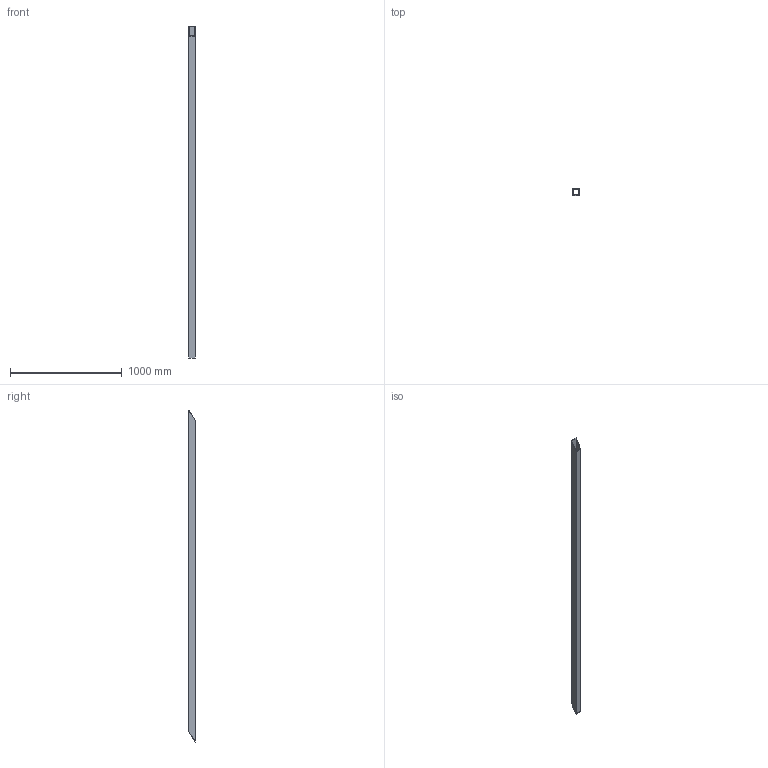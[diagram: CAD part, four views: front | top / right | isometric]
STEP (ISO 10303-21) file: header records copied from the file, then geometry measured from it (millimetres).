
FILE_DESCRIPTION(('Open CASCADE Model'),'2;1');
FILE_NAME('Open CASCADE Shape Model','2026-10-15T15:10:04',('Author'),( 'Open CASCADE'),'Open CASCADE STEP processor 8.0','Open CASCADE 8.0' ,'Unknown');
FILE_SCHEMA(('AUTOMOTIVE_DESIGN { 1 0 10303 214 1 1 1 1 }'));
Length unit declared in the file: millimetre
Products named in the file (1): SHS60x60x4_L2882256_CUTf8e6e9_P05 16
Bounding box: 60 x 60 x 2976.32 mm (x, y, z)
Volume: 2582501.4 mm3; surface area: 1294583 mm2
Topology: 1 solids, 1 shells, 10 faces, 24 edges, 16 vertices
Faces by surface type: plane 10
Entity records: 582 total; most frequent: CARTESIAN_POINT 131, DIRECTION 62, ORIENTED_EDGE 48, PCURVE 48, DEFINITIONAL_REPRESENTATION 48, LINE 40, VECTOR 40, B_SPLINE_CURVE_WITH_KNOTS 32
